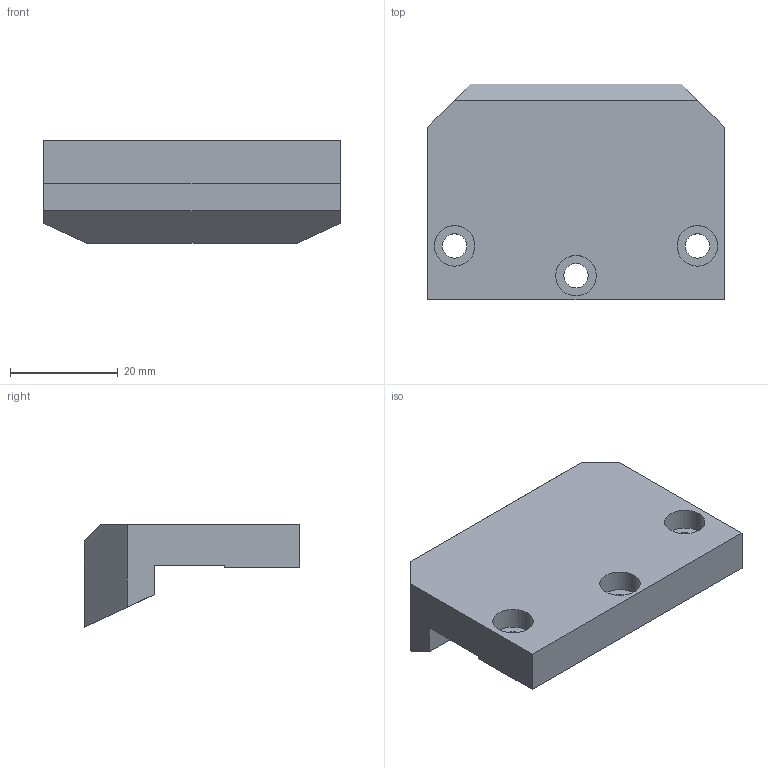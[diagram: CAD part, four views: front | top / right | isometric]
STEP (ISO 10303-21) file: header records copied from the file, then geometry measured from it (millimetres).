
FILE_DESCRIPTION (( 'STEP AP214' ), '1' );
FILE_NAME ('N20779.step', '2024-12-03T16:26:41', ( '' ), ( '' ), 'SwSTEP 2.0', 'SolidWorks 2023', '' );
FILE_SCHEMA (( 'AUTOMOTIVE_DESIGN' ));
Length unit declared in the file: millimetre
Products named in the file (1): N20779
Bounding box: 55 x 40 x 19 mm (x, y, z)
Volume: 20898.4 mm3; surface area: 7074.1 mm2
Topology: 1 solids, 1 shells, 22 faces, 51 edges, 34 vertices
Faces by surface type: plane 16, cylinder 6
Full cylindrical faces by diameter (mm): 4.5 x3, 7.5 x3
Entity records: 632 total; most frequent: DIRECTION 103, CARTESIAN_POINT 102, ORIENTED_EDGE 90, EDGE_CURVE 45, EDGE_LOOP 37, AXIS2_PLACEMENT_3D 35, VERTEX_POINT 34, LINE 33
